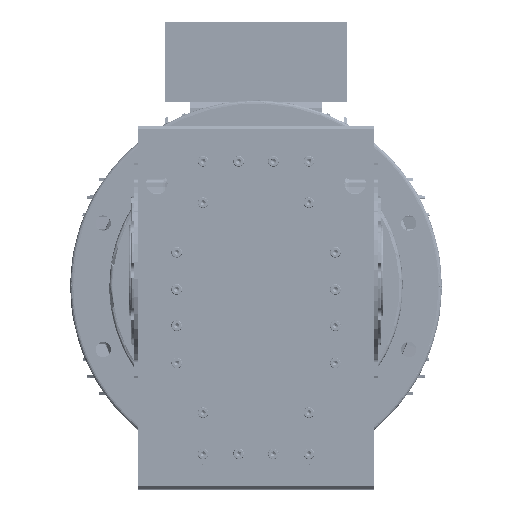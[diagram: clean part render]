
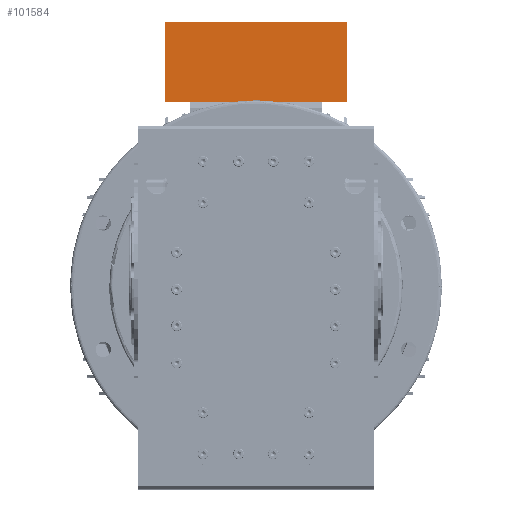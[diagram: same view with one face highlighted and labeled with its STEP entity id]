
A CAD part, top view. The second image highlights one B-rep face of the part: STEP entity #101584.
In plain terms, the highlighted planar face has unit normal (0, 0, 1).
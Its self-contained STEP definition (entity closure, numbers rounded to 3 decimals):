
#11847 = AXIS2_PLACEMENT_3D ( 'NONE', #128838, #128823, #128840 ) ;
#17972 = ORIENTED_EDGE ( 'NONE', *, *, #53546, .T. ) ;
#18044 = ORIENTED_EDGE ( 'NONE', *, *, #53683, .F. ) ;
#18054 = ORIENTED_EDGE ( 'NONE', *, *, #53529, .F. ) ;
#18068 = ORIENTED_EDGE ( 'NONE', *, *, #53625, .F. ) ;
#29873 = DIRECTION ( 'NONE',  ( 0., -1., 0. ) ) ;
#29880 = CARTESIAN_POINT ( 'NONE',  ( 110., 320., -14.5 ) ) ;
#29991 = CARTESIAN_POINT ( 'NONE',  ( -110., 320., -14.5 ) ) ;
#30034 = DIRECTION ( 'NONE',  ( 0., 1., 0. ) ) ;
#53529 = EDGE_CURVE ( 'NONE', #141685, #141697, #163366, .T. ) ;
#53546 = EDGE_CURVE ( 'NONE', #141690, #141659, #163455, .T. ) ;
#53625 = EDGE_CURVE ( 'NONE', #141697, #141659, #163514, .T. ) ;
#53683 = EDGE_CURVE ( 'NONE', #141690, #141685, #163509, .T. ) ;
#101584 = ADVANCED_FACE ( 'NONE', ( #126824 ), #128869, .F. ) ;
#108041 = CARTESIAN_POINT ( 'NONE',  ( 110., 320., -14.5 ) ) ;
#108062 = CARTESIAN_POINT ( 'NONE',  ( 110., 223., -14.5 ) ) ;
#108065 = DIRECTION ( 'NONE',  ( 1., 0., 0. ) ) ;
#108097 = DIRECTION ( 'NONE',  ( 1., 0., 0. ) ) ;
#126824 = FACE_OUTER_BOUND ( 'NONE', #151536, .T. ) ;
#128823 = DIRECTION ( 'NONE',  ( 0., 0., -1. ) ) ;
#128838 = CARTESIAN_POINT ( 'NONE',  ( 110., 320., -14.5 ) ) ;
#128840 = DIRECTION ( 'NONE',  ( -1., 0., 0. ) ) ;
#128869 = PLANE ( 'NONE',  #11847 ) ;
#141659 = VERTEX_POINT ( 'NONE', #154738 ) ;
#141685 = VERTEX_POINT ( 'NONE', #154708 ) ;
#141690 = VERTEX_POINT ( 'NONE', #154767 ) ;
#141697 = VERTEX_POINT ( 'NONE', #154778 ) ;
#151536 = EDGE_LOOP ( 'NONE', ( #18054, #18044, #17972, #18068 ) ) ;
#154708 = CARTESIAN_POINT ( 'NONE',  ( -110., 320., -14.5 ) ) ;
#154738 = CARTESIAN_POINT ( 'NONE',  ( 110., 223., -14.5 ) ) ;
#154767 = CARTESIAN_POINT ( 'NONE',  ( -110., 223., -14.5 ) ) ;
#154778 = CARTESIAN_POINT ( 'NONE',  ( 110., 320., -14.5 ) ) ;
#163366 = LINE ( 'NONE', #108041, #163412 ) ;
#163412 = VECTOR ( 'NONE', #108097, 1000. ) ;
#163445 = VECTOR ( 'NONE', #108065, 1000. ) ;
#163455 = LINE ( 'NONE', #108062, #163445 ) ;
#163489 = VECTOR ( 'NONE', #30034, 1000. ) ;
#163509 = LINE ( 'NONE', #29991, #163489 ) ;
#163514 = LINE ( 'NONE', #29880, #163525 ) ;
#163525 = VECTOR ( 'NONE', #29873, 1000. ) ;
